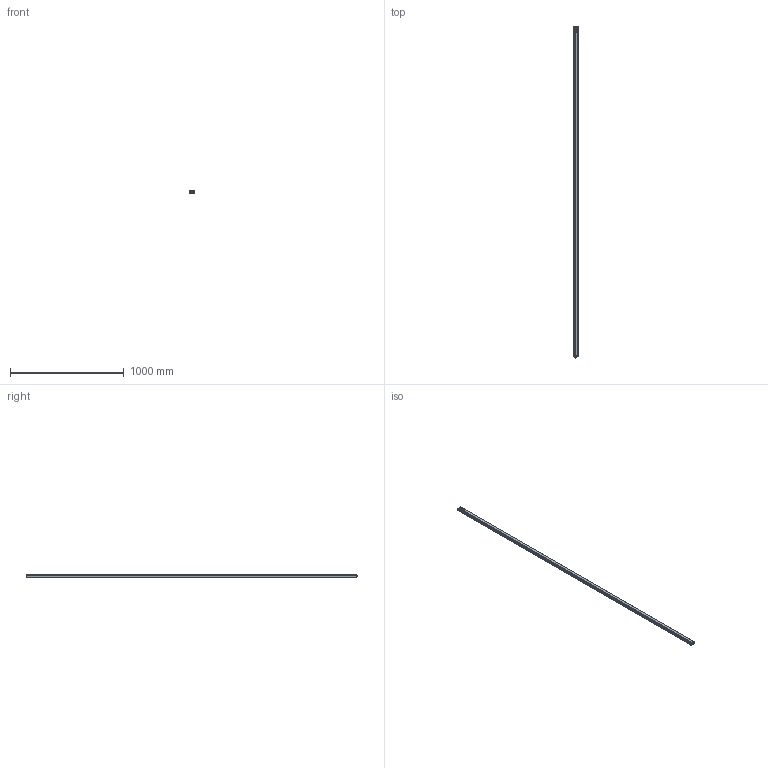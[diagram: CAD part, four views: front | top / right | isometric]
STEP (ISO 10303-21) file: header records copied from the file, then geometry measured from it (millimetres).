
FILE_DESCRIPTION(/* description */ (''),/* implementation_level */ '2;1');
FILE_NAME(/* name */ 'C:\Users\andre\SynologyDrive\Optoscan\Libreria Componenti\00 - Barriere\Polaris sorgente\Polaris_2900_TX.stp',/* time_stamp */ '2021-06-04T11:31:42+02:00',/* author */ ('andre'),/* organization */ (''),/* preprocessor_version */ 'ST-DEVELOPER v18',/* originating_system */ 'Autodesk Inventor 2020',/* authorisation */ '');
FILE_SCHEMA (('AUTOMOTIVE_DESIGN { 1 0 10303 214 3 1 1 }'));
Length unit declared in the file: millimetre
Products named in the file (1): Polaris_2900_TX
Bounding box: 40.5 x 2912.8 x 20.75 mm (x, y, z)
Volume: 570649.5 mm3; surface area: 756794.2 mm2
Topology: 1 solids, 1 shells, 722 faces, 2004 edges, 1288 vertices
Faces by surface type: plane 327, cylinder 203, bspline 115, torus 63, cone 8, sphere 6
Full cylindrical faces by diameter (mm): 1 x8, 2.5 x4, 3 x4, 3.5 x4, 5.5 x4, 8 x1, 10.5 x2, 11.75 x9, 12 x1, 12.3 x2, 14.5 x1, 16.7 x1, 17.5 x1
Entity records: 29853 total; most frequent: CARTESIAN_POINT 11151, ORIENTED_EDGE 3994, DIRECTION 3433, EDGE_CURVE 1997, VERTEX_POINT 1289, AXIS2_PLACEMENT_3D 1187, LINE 1059, VECTOR 1059
